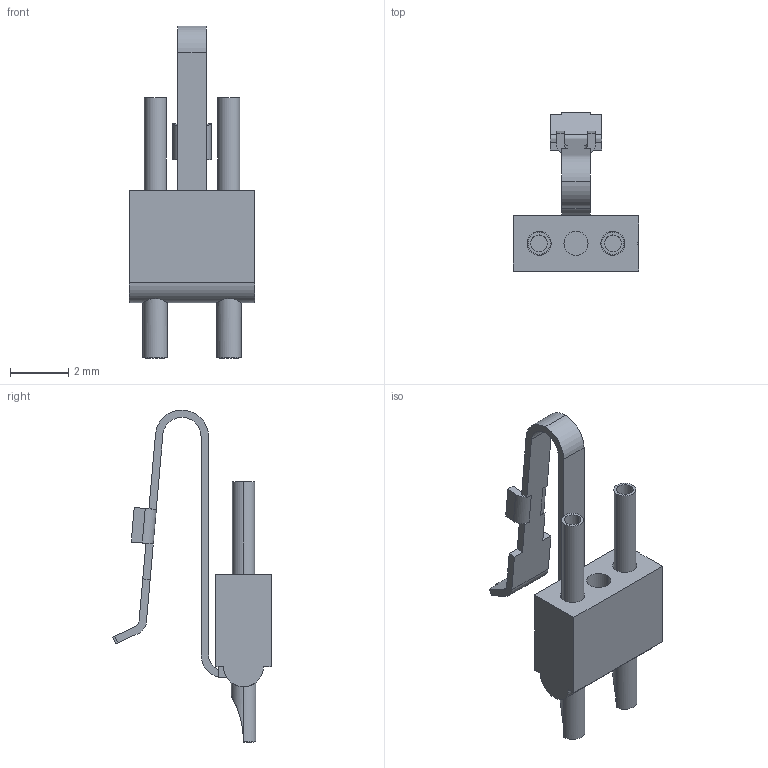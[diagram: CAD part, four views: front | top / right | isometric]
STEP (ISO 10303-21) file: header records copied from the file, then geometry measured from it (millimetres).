
FILE_DESCRIPTION (( 'STEP AP214' ), '1' );
FILE_NAME ('A25001-002.STEP', '2015-11-04T14:31:01', ( '' ), ( '' ), 'SwSTEP 2.0', 'SolidWorks 2015', '' );
FILE_SCHEMA (( 'AUTOMOTIVE_DESIGN' ));
Length unit declared in the file: inch
Products named in the file (1): A25001-002
Bounding box: 4.32 x 5.45 x 11.43 mm (x, y, z)
Volume: 34.9 mm3; surface area: 180.1 mm2
Topology: 1 solids, 3 shells, 124 faces, 297 edges, 192 vertices
Faces by surface type: plane 62, cylinder 55, torus 7
Entity records: 3812 total; most frequent: CARTESIAN_POINT 804, DIRECTION 642, ORIENTED_EDGE 594, EDGE_CURVE 297, AXIS2_PLACEMENT_3D 234, VERTEX_POINT 192, LINE 174, VECTOR 174
